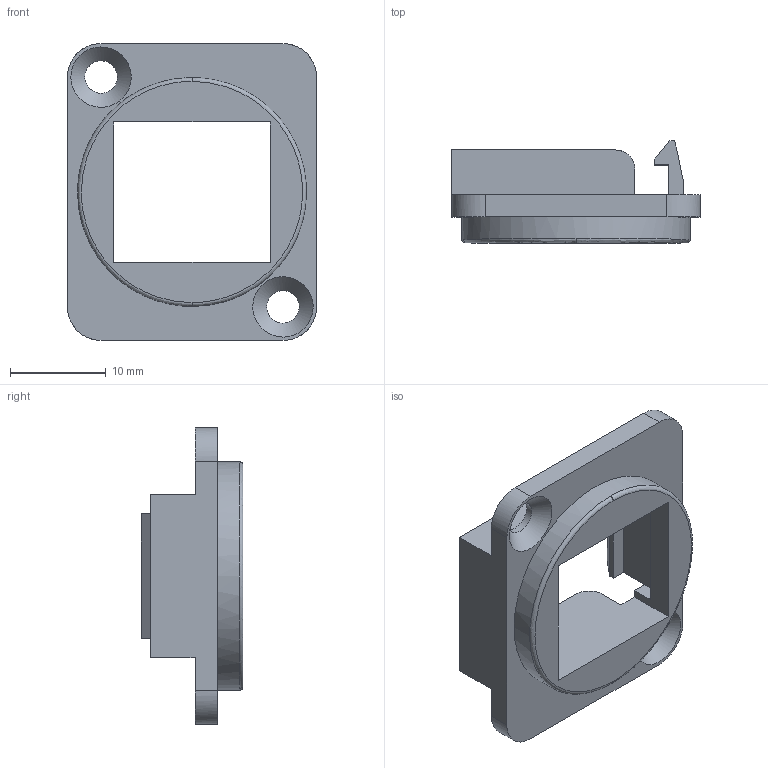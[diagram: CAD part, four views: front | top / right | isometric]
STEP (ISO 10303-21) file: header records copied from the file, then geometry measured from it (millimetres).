
FILE_DESCRIPTION( ('This file contains a STEP AP42 implementation' ,'as created by ZW3D STEP Interface translator.') ,'2;1' );
FILE_NAME( 'TB-038_3013BUSXLRBK_SD.stp' ,'26 330.134527', (''), ('ZWCAD Software Co.'), 'Version 1.0', 'ZW3D to STEP translator', '' );
FILE_SCHEMA(('AUTOMOTIVE_DESIGN'));
Length unit declared in the file: millimetre
Products named in the file (2): 0; TB-038_3013BUSXLRBK_SD
Bounding box: 26 x 10.65 x 31 mm (x, y, z)
Volume: 1995.3 mm3; surface area: 2679.3 mm2
Topology: 1 solids, 1 shells, 56 faces, 162 edges, 108 vertices
Faces by surface type: bspline 56
Entity records: 3146 total; most frequent: CARTESIAN_POINT 2077, ORIENTED_EDGE 324, B_SPLINE_CURVE_WITH_KNOTS 162, EDGE_CURVE 162, VERTEX_POINT 108, EDGE_LOOP 62, FACE_OUTER_BOUND 56, ADVANCED_FACE 56
